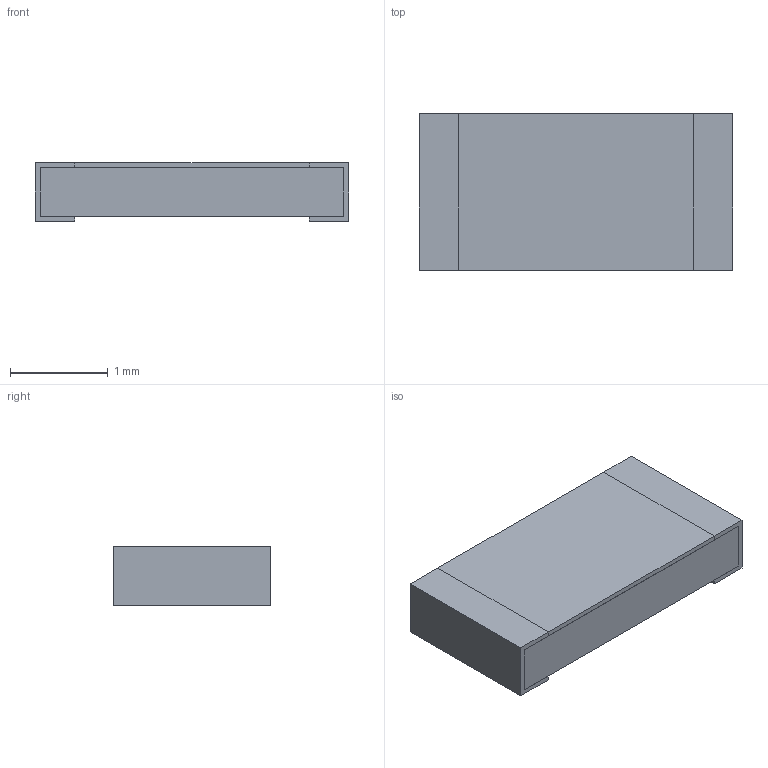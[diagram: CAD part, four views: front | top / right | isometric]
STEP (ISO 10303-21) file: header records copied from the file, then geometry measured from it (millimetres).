
FILE_DESCRIPTION(('STEP AP203'), '1');
FILE_NAME('R1-33-2', '', ('UNSPECIFIED'), ('UNSPECIFIED'), 'ASCON STEP Converter 1.6', 'ASCON Math Kernel', '');
FILE_SCHEMA(('CONFIG_CONTROL_DESIGN'));
Length unit declared in the file: millimetre
Bounding box: 3.2 x 1.6 x 0.6 mm (x, y, z)
Volume: 2.9 mm3; surface area: 31.6 mm2
Topology: 4 solids, 4 shells, 32 faces, 72 edges, 48 vertices
Faces by surface type: plane 32
Entity records: 1194 total; most frequent: CARTESIAN_POINT 153, ORIENTED_EDGE 144, DIRECTION 138, EDGE_CURVE 72, LINE 72, VECTOR 72, VERTEX_POINT 48, COLOUR_RGB 36
